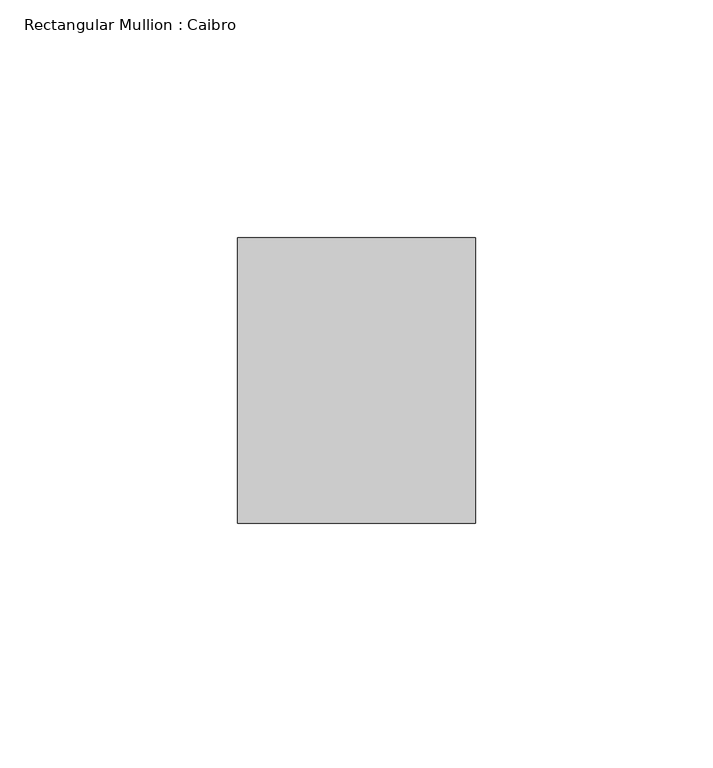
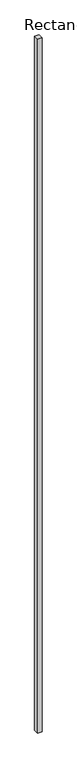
"""IFC4 building model written with IfcOpenShell, lengths in millimetres: member geometry, Rectangular Mullion : Caibro."""

from ifc_helpers import new_model, si_unit, frame, origin, place, context, project, spatial, polyline, outline, extrude, source, transform, mapped, element, save


def rectangular_mullion_caibro_a2a3702c(model_context):
    return source(origin(), model_context, "Body", "SweptSolid", [
        extrude(outline(polyline([(-25.0, -60.0), (-25.0, 0.0), (25.0, 0.0), (25.0, -60.0), (-25.0, -60.0)])), frame((0.0, 0.0, -8478.8498048), z_axis=(0.0, 0.0, 1.0), x_axis=(1.0, 0.0, 0.0)), (0.0, 0.0, 1.0), 8478.8498048),
    ])


if __name__ == "__main__":
    model = new_model("IFC4")
    model_context = context("Model", 3, world=origin())
    ifc_project = project(units=[si_unit("LENGTHUNIT", "METRE", prefix="MILLI")], contexts=[model_context])
    site = spatial("IfcSite", under=ifc_project)
    building = spatial("IfcBuilding", under=site)
    placement = place(None, origin())
    rectangular_mullion_caibro_shape = rectangular_mullion_caibro_a2a3702c(model_context)
    element("IfcMember", 1, ObjectType="Rectangular Mullion : Caibro", at=placement, inside=building, context=model_context, shape_type="MappedRepresentation", body=[
        mapped(rectangular_mullion_caibro_shape, transform((0.0, 0.0, 0.0), x_axis=(1.0, 0.0, 0.0), y_axis=(0.0, 1.0, 0.0), z_axis=(0.0, 0.0, 1.0))),
    ])
    save(model, "model.ifc")
